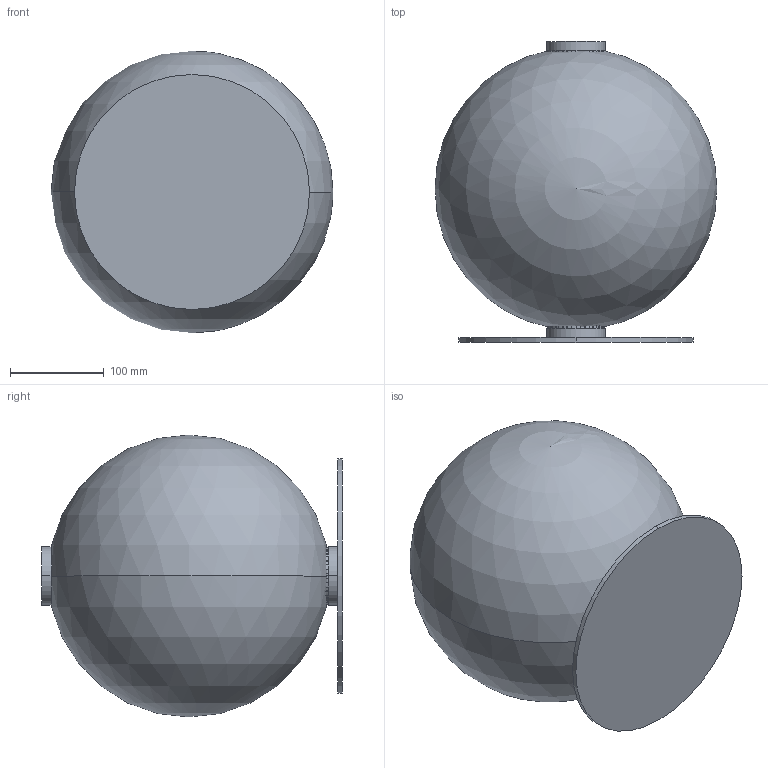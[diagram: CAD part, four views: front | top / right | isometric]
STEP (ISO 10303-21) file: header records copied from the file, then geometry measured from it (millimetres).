
FILE_DESCRIPTION (( 'STEP AP214' ), '1' );
FILE_NAME ('LUDO_S1368.STEP', '2026-08-27T11:32:09', ( '' ), ( '' ), 'SwSTEP 2.0', 'SolidWorks 2023', '' );
FILE_SCHEMA (( 'AUTOMOTIVE_DESIGN' ));
Length unit declared in the file: millimetre
Products named in the file (5): base sobremesa; tubo ison 300; LUDO_S1368; colgante1; bola ulon
Assembly tree (4 placements, depth 3):
  LUDO_S1368
    colgante1
      tubo ison 300
      bola ulon
    base sobremesa
Bounding box: 300 x 320 x 300 mm (x, y, z)
Volume: 15250425.6 mm3; surface area: 461255.5 mm2
Topology: 3 solids, 3 shells, 91 faces, 256 edges, 171 vertices
Faces by surface type: cylinder 45, plane 44, sphere 2
Entity records: 3080 total; most frequent: DIRECTION 541, CARTESIAN_POINT 518, ORIENTED_EDGE 502, EDGE_CURVE 251, AXIS2_PLACEMENT_3D 191, VERTEX_POINT 168, LINE 159, VECTOR 159
